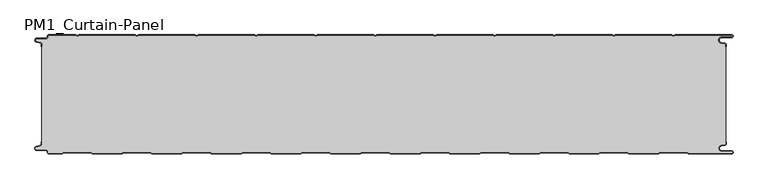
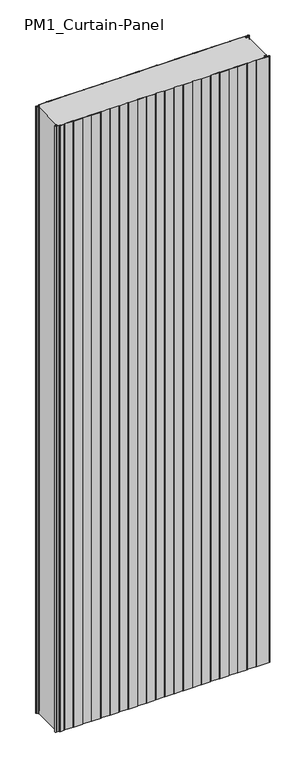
"""IFC4 building model written with IfcOpenShell, lengths in millimetres: plate geometry, PM1_Curtain-Panel : ACH_PM1_Stone-wool-Panel_200M."""

from ifc_helpers import new_model, si_unit, point, frame_2d, origin, origin_with_axes, place, context, project, spatial, polyline, circle_curve, trimmed, segment, composite_curve, outline, extrude, source, transform, mapped, element, save


def pm1_curtain_panel_dddb3a22(model_context):
    return source(origin(), model_context, "Body", "SweptSolid", [
        extrude(outline(composite_curve([segment(trimmed(circle_curve(frame_2d((-577.0, -15.878557)), 2.0), [point((-575.0, -15.878557))], [point((-576.5500978, -13.9298169))], True, "CARTESIAN"), True, "CONTINUOUS"), segment(polyline([(-576.5500978, -13.9298169), (-582.7098239, -12.507732)]), True, "CONTINUOUS"), segment(trimmed(circle_curve(frame_2d((-581.9, -9.0)), 3.6), [point((-582.7098239, -12.507732))], [point((-581.9, -5.4))], False, "CARTESIAN"), True, "CONTINUOUS"), segment(polyline([(-581.9, -5.4), (-566.4, -5.4)]), True, "CONTINUOUS"), segment(trimmed(circle_curve(frame_2d((-566.4, -3.4)), 2.0), [point((-566.4, -5.4))], [point((-564.4, -3.4))], True, "CARTESIAN"), True, "CONTINUOUS"), segment(polyline([(-564.4, -3.4), (-564.4, -2.0)]), True, "CONTINUOUS"), segment(trimmed(circle_curve(frame_2d((-562.4, -2.0)), 2.0), [point((-564.4, -2.0))], [point((-562.4, 0.0))], False, "CARTESIAN"), True, "CONTINUOUS"), segment(polyline([(-562.4, 0.0), (-517.0999995, 0.0), (-514.4, -1.5588455), (-511.7000005, 0.0), (-417.0999995, 0.0), (-414.4, -1.5588455), (-411.7000005, 0.0), (-317.0999995, 0.0), (-314.4, -1.5588455), (-311.7000005, 0.0), (-217.0999995, 0.0), (-214.4, -1.5588455), (-211.7000005, 0.0), (-117.0999995, 0.0), (-114.4, -1.5588455), (-111.7000005, 0.0), (-17.0999995, 0.0), (-14.4, -1.5588455), (-11.7000005, 0.0), (82.9000005, 0.0), (85.6, -1.5588455), (88.2999995, 0.0), (182.9000005, 0.0), (185.6, -1.5588455), (188.2999995, 0.0), (282.9000005, 0.0), (285.6, -1.5588455), (288.2999995, 0.0), (382.9000005, 0.0), (385.6, -1.5588455), (388.2999995, 0.0), (482.9000005, 0.0), (485.6, -1.5588455), (488.2999995, 0.0), (583.1, 0.0)]), True, "CONTINUOUS"), segment(trimmed(circle_curve(frame_2d((583.1, -2.5)), 2.5), [point((583.1, 0.0))], [point((583.1, -5.0))], False, "CARTESIAN"), True, "CONTINUOUS"), segment(polyline([(583.1, -5.0), (566.1, -5.0)]), True, "CONTINUOUS"), segment(trimmed(circle_curve(frame_2d((566.1, -9.0)), 4.0), [point((566.1, -5.0))], [point((565.405407, -12.939231))], True, "CARTESIAN"), True, "CONTINUOUS"), segment(polyline([(565.405407, -12.939231), (571.8514855, -14.0758491)]), True, "CONTINUOUS"), segment(trimmed(circle_curve(frame_2d((571.4, -16.6363492)), 2.6), [point((571.8514855, -14.0758491))], [point((574.0, -16.6363492))], False, "CARTESIAN"), True, "CONTINUOUS"), segment(polyline([(574.0, -16.6363492), (574.0, -20.0), (573.2, -20.0), (573.2, -16.6363492)]), True, "CONTINUOUS"), segment(trimmed(circle_curve(frame_2d((571.4, -16.6363492)), 1.8), [point((573.2, -16.6363492))], [point((571.7125669, -14.8636953))], True, "CARTESIAN"), True, "CONTINUOUS"), segment(polyline([(571.7125669, -14.8636953), (565.2664884, -13.7270772)]), True, "CONTINUOUS"), segment(trimmed(circle_curve(frame_2d((566.1, -9.0)), 4.8), [point((565.2664884, -13.7270772))], [point((566.1, -4.2))], False, "CARTESIAN"), True, "CONTINUOUS"), segment(polyline([(566.1, -4.2), (583.1, -4.2)]), True, "CONTINUOUS"), segment(trimmed(circle_curve(frame_2d((583.1, -2.5)), 1.7), [point((583.1, -4.2))], [point((583.1, -0.8))], True, "CARTESIAN"), True, "CONTINUOUS"), segment(polyline([(583.1, -0.8), (488.5143588, -0.8), (485.6, -2.482606), (482.6856412, -0.8), (388.5143588, -0.8), (385.6, -2.482606), (382.6856412, -0.8), (288.5143588, -0.8), (285.6, -2.482606), (282.6856412, -0.8), (188.5143588, -0.8), (185.6, -2.482606), (182.6856412, -0.8), (88.5143588, -0.8), (85.6, -2.482606), (82.6856412, -0.8), (-11.4856412, -0.8), (-14.4, -2.482606), (-17.3143588, -0.8), (-111.4856412, -0.8), (-114.4, -2.482606), (-117.3143588, -0.8), (-211.4856412, -0.8), (-214.4, -2.482606), (-217.3143588, -0.8), (-311.4856412, -0.8), (-314.4, -2.482606), (-317.3143588, -0.8), (-411.4856412, -0.8), (-414.4, -2.482606), (-417.3143588, -0.8), (-511.4856412, -0.8), (-514.4, -2.482606), (-517.3143588, -0.8), (-562.4, -0.8)]), True, "CONTINUOUS"), segment(trimmed(circle_curve(frame_2d((-562.4, -2.0)), 1.2), [point((-562.4, -0.8))], [point((-563.6, -2.0))], True, "CARTESIAN"), True, "CONTINUOUS"), segment(polyline([(-563.6, -2.0), (-563.6, -3.4)]), True, "CONTINUOUS"), segment(trimmed(circle_curve(frame_2d((-566.4, -3.4)), 2.8), [point((-563.6, -3.4))], [point((-566.4, -6.2))], False, "CARTESIAN"), True, "CONTINUOUS"), segment(polyline([(-566.4, -6.2), (-581.9, -6.2)]), True, "CONTINUOUS"), segment(trimmed(circle_curve(frame_2d((-581.9, -9.0)), 2.8), [point((-581.9, -6.2))], [point((-582.529863, -11.7282362))], True, "CARTESIAN"), True, "CONTINUOUS"), segment(polyline([(-582.529863, -11.7282362), (-576.370137, -13.150321)]), True, "CONTINUOUS"), segment(trimmed(circle_curve(frame_2d((-577.0, -15.878557)), 2.8), [point((-576.370137, -13.150321))], [point((-574.2, -15.878557))], False, "CARTESIAN"), True, "CONTINUOUS"), segment(polyline([(-574.2, -15.878557), (-574.2, -20.0), (-575.0, -20.0), (-575.0, -15.878557)]), True, "CONTINUOUS")], self_intersect=False)), origin_with_axes(), (0.0, 0.0, 1.0), 3500.0),
        extrude(outline(composite_curve([segment(polyline([(-574.2, -184.121443), (-574.2, -15.8785573)]), True, "CONTINUOUS"), segment(trimmed(circle_curve(frame_2d((-577.0, -15.8785573)), 2.8), [point((-574.2, -15.8785573))], [point((-576.370137, -13.1503212))], True, "CARTESIAN"), True, "CONTINUOUS"), segment(polyline([(-576.370137, -13.1503212), (-582.5298631, -11.7282362)]), True, "CONTINUOUS"), segment(trimmed(circle_curve(frame_2d((-581.9, -9.0)), 2.8), [point((-582.5298631, -11.7282362))], [point((-581.9, -6.2))], False, "CARTESIAN"), True, "CONTINUOUS"), segment(polyline([(-581.9, -6.2), (-566.4000001, -6.2)]), True, "CONTINUOUS"), segment(trimmed(circle_curve(frame_2d((-566.4000001, -3.4)), 2.8), [point((-566.4000001, -6.2))], [point((-563.6000001, -3.4))], True, "CARTESIAN"), True, "CONTINUOUS"), segment(polyline([(-563.6000001, -3.4), (-563.6000001, -2.0)]), True, "CONTINUOUS"), segment(trimmed(circle_curve(frame_2d((-562.4000001, -2.0)), 1.2), [point((-563.6000001, -2.0))], [point((-562.4000001, -0.8))], False, "CARTESIAN"), True, "CONTINUOUS"), segment(polyline([(-562.4000001, -0.8), (-517.3143589, -0.8), (-514.4000001, -2.482606), (-511.4856412, -0.8), (-417.3143589, -0.8), (-414.4000001, -2.482606), (-411.4856412, -0.8), (-317.3143589, -0.8), (-314.4000001, -2.482606), (-311.4856412, -0.8), (-217.3143589, -0.8), (-214.4000001, -2.482606), (-211.4856412, -0.8), (-117.3143589, -0.8), (-114.4000001, -2.482606), (-111.4856412, -0.8), (-17.3143589, -0.8), (-14.4000001, -2.482606), (-11.4856412, -0.8), (82.6856411, -0.8), (85.5999999, -2.482606), (88.5143588, -0.8), (182.6856411, -0.8), (185.5999999, -2.482606), (188.5143588, -0.8), (282.6856411, -0.8), (285.5999999, -2.482606), (288.5143588, -0.8), (382.6856411, -0.8), (385.5999999, -2.482606), (388.5143588, -0.8), (482.6856411, -0.8), (485.6, -2.482606), (488.5143588, -0.8), (583.1, -0.8)]), True, "CONTINUOUS"), segment(trimmed(circle_curve(frame_2d((583.1, -2.5)), 1.7), [point((583.1, -0.8))], [point((583.1, -4.2))], False, "CARTESIAN"), True, "CONTINUOUS"), segment(polyline([(583.1, -4.2), (566.1, -4.2)]), True, "CONTINUOUS"), segment(trimmed(circle_curve(frame_2d((566.1, -9.0)), 4.8), [point((566.1, -4.2))], [point((565.2664883, -13.7270771))], True, "CARTESIAN"), True, "CONTINUOUS"), segment(polyline([(565.2664883, -13.7270771), (571.7125668, -14.8636953)]), True, "CONTINUOUS"), segment(trimmed(circle_curve(frame_2d((571.4, -16.6363492)), 1.8), [point((571.7125668, -14.8636953))], [point((573.2, -16.6363492))], False, "CARTESIAN"), True, "CONTINUOUS"), segment(polyline([(573.2, -16.6363492), (573.2, -183.363652)]), True, "CONTINUOUS"), segment(trimmed(circle_curve(frame_2d((571.4, -183.363652)), 1.8), [point((573.2, -183.363652))], [point((571.7125666, -185.1363059))], False, "CARTESIAN"), True, "CONTINUOUS"), segment(polyline([(571.7125666, -185.1363059), (565.266489, -186.272923)]), True, "CONTINUOUS"), segment(trimmed(circle_curve(frame_2d((566.1, -191.0000002)), 4.7999999), [point((565.266489, -186.272923))], [point((566.1, -195.8000001))], True, "CARTESIAN"), True, "CONTINUOUS"), segment(polyline([(566.1, -195.8000001), (583.1, -195.8000001)]), True, "CONTINUOUS"), segment(trimmed(circle_curve(frame_2d((583.1, -197.5)), 1.7), [point((583.1, -195.8000001))], [point((583.1, -199.2))], False, "CARTESIAN"), True, "CONTINUOUS"), segment(polyline([(583.1, -199.2), (510.8105122, -199.2), (508.2124346, -197.7), (462.9837184, -197.7), (460.3856408, -199.2), (410.8105122, -199.2), (408.2124346, -197.7), (362.9837184, -197.7), (360.3856408, -199.2), (310.8105122, -199.2), (308.2124346, -197.7), (262.9837184, -197.7), (260.3856408, -199.2), (210.8105122, -199.2), (208.2124346, -197.7), (162.9837184, -197.7), (160.3856408, -199.2), (110.8105122, -199.2), (108.2124346, -197.7), (62.9837184, -197.7), (60.3856408, -199.2), (10.8105122, -199.2), (8.2124346, -197.7), (-37.0162816, -197.7), (-39.6143592, -199.2), (-89.1894878, -199.2), (-91.7875654, -197.7), (-137.0162816, -197.7), (-139.6143592, -199.2), (-189.1894878, -199.2), (-191.7875654, -197.7), (-237.0162816, -197.7), (-239.6143592, -199.2), (-289.1894878, -199.2), (-291.7875654, -197.7), (-337.0162816, -197.7), (-339.6143592, -199.2), (-389.1894878, -199.2), (-391.7875654, -197.7), (-437.0162816, -197.7), (-439.6143592, -199.2), (-489.1894878, -199.2), (-491.7875654, -197.7), (-537.0162816, -197.7), (-539.6143592, -199.2), (-562.4, -199.2)]), True, "CONTINUOUS"), segment(trimmed(circle_curve(frame_2d((-562.4, -198.0)), 1.2), [point((-562.4, -199.2))], [point((-563.6, -198.0))], False, "CARTESIAN"), True, "CONTINUOUS"), segment(polyline([(-563.6, -198.0), (-563.6, -196.5999998)]), True, "CONTINUOUS"), segment(trimmed(circle_curve(frame_2d((-566.4, -196.5999998)), 2.8), [point((-563.6, -196.5999998))], [point((-566.4, -193.7999998))], True, "CARTESIAN"), True, "CONTINUOUS"), segment(polyline([(-566.4, -193.7999998), (-581.9, -193.7999998)]), True, "CONTINUOUS"), segment(trimmed(circle_curve(frame_2d((-581.9, -191.0)), 2.7999998), [point((-581.9, -193.7999998))], [point((-582.529863, -188.271764))], False, "CARTESIAN"), True, "CONTINUOUS"), segment(polyline([(-582.529863, -188.271764), (-576.370137, -186.8496792)]), True, "CONTINUOUS"), segment(trimmed(circle_curve(frame_2d((-577.0, -184.121443)), 2.8), [point((-576.370137, -186.8496792))], [point((-574.2, -184.121443))], True, "CARTESIAN"), True, "CONTINUOUS")], self_intersect=False)), origin_with_axes(), (0.0, 0.0, 1.0), 3500.0),
        extrude(outline(composite_curve([segment(trimmed(circle_curve(frame_2d((-562.4, -198.0)), 2.0), [point((-562.4, -200.0))], [point((-564.4, -198.0))], False, "CARTESIAN"), True, "CONTINUOUS"), segment(polyline([(-564.4, -198.0), (-564.4, -196.6)]), True, "CONTINUOUS"), segment(trimmed(circle_curve(frame_2d((-566.4, -196.6)), 2.0), [point((-564.4, -196.6))], [point((-566.4, -194.6))], True, "CARTESIAN"), True, "CONTINUOUS"), segment(polyline([(-566.4, -194.6), (-581.9, -194.6)]), True, "CONTINUOUS"), segment(trimmed(circle_curve(frame_2d((-581.9, -191.0)), 3.6), [point((-581.9, -194.6))], [point((-582.7098239, -187.4922678))], False, "CARTESIAN"), True, "CONTINUOUS"), segment(polyline([(-582.7098239, -187.4922678), (-576.5500979, -186.070183)]), True, "CONTINUOUS"), segment(trimmed(circle_curve(frame_2d((-577.0, -184.121443)), 2.0), [point((-576.5500979, -186.070183))], [point((-575.0, -184.121443))], True, "CARTESIAN"), True, "CONTINUOUS"), segment(polyline([(-575.0, -184.121443), (-575.0, -180.0), (-574.2, -180.0), (-574.2, -184.121443)]), True, "CONTINUOUS"), segment(trimmed(circle_curve(frame_2d((-577.0, -184.121443)), 2.8), [point((-574.2, -184.121443))], [point((-576.370137, -186.8496792))], False, "CARTESIAN"), True, "CONTINUOUS"), segment(polyline([(-576.370137, -186.8496792), (-582.529863, -188.271764)]), True, "CONTINUOUS"), segment(trimmed(circle_curve(frame_2d((-581.9, -191.0)), 2.8), [point((-582.529863, -188.271764))], [point((-581.9, -193.8))], True, "CARTESIAN"), True, "CONTINUOUS"), segment(polyline([(-581.9, -193.8), (-566.4, -193.8)]), True, "CONTINUOUS"), segment(trimmed(circle_curve(frame_2d((-566.4, -196.6)), 2.8), [point((-566.4, -193.8))], [point((-563.6, -196.6))], False, "CARTESIAN"), True, "CONTINUOUS"), segment(polyline([(-563.6, -196.6), (-563.6, -198.0)]), True, "CONTINUOUS"), segment(trimmed(circle_curve(frame_2d((-562.4, -198.0)), 1.2), [point((-563.6, -198.0))], [point((-562.4, -199.2))], True, "CARTESIAN"), True, "CONTINUOUS"), segment(polyline([(-562.4, -199.2), (-539.6143592, -199.2), (-537.0162816, -197.7), (-491.7875654, -197.7), (-489.1894878, -199.2), (-439.6143592, -199.2), (-437.0162816, -197.7), (-391.7875654, -197.7), (-389.1894878, -199.2), (-339.6143592, -199.2), (-337.0162816, -197.7), (-291.7875654, -197.7), (-289.1894878, -199.2), (-239.6143592, -199.2), (-237.0162816, -197.7), (-191.7875654, -197.7), (-189.1894878, -199.2), (-139.6143592, -199.2), (-137.0162816, -197.7), (-91.7875654, -197.7), (-89.1894878, -199.2), (-39.6143592, -199.2), (-37.0162816, -197.7), (8.2124346, -197.7), (10.8105122, -199.2), (60.3856408, -199.2), (62.9837184, -197.7), (108.2124346, -197.7), (110.8105122, -199.2), (160.3856408, -199.2), (162.9837184, -197.7), (208.2124346, -197.7), (210.8105122, -199.2), (260.3856408, -199.2), (262.9837184, -197.7), (308.2124346, -197.7), (310.8105122, -199.2), (360.3856408, -199.2), (362.9837184, -197.7), (408.2124346, -197.7), (410.8105122, -199.2), (460.3856408, -199.2), (462.9837184, -197.7), (508.2124346, -197.7), (510.8105122, -199.2), (583.1, -199.2)]), True, "CONTINUOUS"), segment(trimmed(circle_curve(frame_2d((583.1, -197.5)), 1.7), [point((583.1, -199.2))], [point((583.1, -195.8))], True, "CARTESIAN"), True, "CONTINUOUS"), segment(polyline([(583.1, -195.8), (566.1, -195.8)]), True, "CONTINUOUS"), segment(trimmed(circle_curve(frame_2d((566.1, -191.0)), 4.8), [point((566.1, -195.8))], [point((565.266489, -186.2729227))], False, "CARTESIAN"), True, "CONTINUOUS"), segment(polyline([(565.266489, -186.2729227), (571.7125666, -185.1363058)]), True, "CONTINUOUS"), segment(trimmed(circle_curve(frame_2d((571.4, -183.363652)), 1.8), [point((571.7125666, -185.1363058))], [point((573.2, -183.363652))], True, "CARTESIAN"), True, "CONTINUOUS"), segment(polyline([(573.2, -183.363652), (573.2, -180.0), (574.0, -180.0), (574.0, -183.363652)]), True, "CONTINUOUS"), segment(trimmed(circle_curve(frame_2d((571.4, -183.363652)), 2.6), [point((574.0, -183.363652))], [point((571.8514851, -185.9241522))], False, "CARTESIAN"), True, "CONTINUOUS"), segment(polyline([(571.8514851, -185.9241522), (565.4054075, -187.0607691)]), True, "CONTINUOUS"), segment(trimmed(circle_curve(frame_2d((566.1, -191.0)), 4.0), [point((565.4054075, -187.0607691))], [point((566.1, -195.0))], True, "CARTESIAN"), True, "CONTINUOUS"), segment(polyline([(566.1, -195.0), (583.1, -195.0)]), True, "CONTINUOUS"), segment(trimmed(circle_curve(frame_2d((583.1, -197.5)), 2.5), [point((583.1, -195.0))], [point((583.1, -200.0))], False, "CARTESIAN"), True, "CONTINUOUS"), segment(polyline([(583.1, -200.0), (510.5961529, -200.0), (507.9980753, -198.5), (463.1980777, -198.5), (460.6000001, -200.0), (410.5961529, -200.0), (407.9980753, -198.5), (363.1980777, -198.5), (360.6000001, -200.0), (310.5961529, -200.0), (307.9980753, -198.5), (263.1980777, -198.5), (260.6000001, -200.0), (210.5961529, -200.0), (207.9980753, -198.5), (163.1980777, -198.5), (160.6000001, -200.0), (110.5961529, -200.0), (107.9980753, -198.5), (63.1980777, -198.5), (60.6000001, -200.0), (10.5961529, -200.0), (7.9980753, -198.5), (-36.8019223, -198.5), (-39.3999999, -200.0), (-89.4038471, -200.0), (-92.0019247, -198.5), (-136.8019223, -198.5), (-139.3999999, -200.0), (-189.4038471, -200.0), (-192.0019247, -198.5), (-236.8019223, -198.5), (-239.3999999, -200.0), (-289.4038471, -200.0), (-292.0019247, -198.5), (-336.8019223, -198.5), (-339.3999999, -200.0), (-389.4038471, -200.0), (-392.0019247, -198.5), (-436.8019223, -198.5), (-439.3999999, -200.0), (-489.4038471, -200.0), (-492.0019247, -198.5), (-536.8019223, -198.5), (-539.3999999, -200.0), (-562.4, -200.0)]), True, "CONTINUOUS")], self_intersect=False)), origin_with_axes(), (0.0, 0.0, 1.0), 3500.0),
    ])


if __name__ == "__main__":
    model = new_model("IFC4")
    model_context = context("Model", 3, world=origin())
    ifc_project = project(units=[si_unit("LENGTHUNIT", "METRE", prefix="MILLI")], contexts=[model_context])
    site = spatial("IfcSite", under=ifc_project)
    building = spatial("IfcBuilding", under=site)
    placement = place(None, origin())
    pm1_curtain_panel_shape = pm1_curtain_panel_dddb3a22(model_context)
    element("IfcPlate", 1, ObjectType="PM1_Curtain-Panel : ACH_PM1_Stone-wool-Panel_200M", at=placement, inside=building, context=model_context, shape_type="MappedRepresentation", body=[
        mapped(pm1_curtain_panel_shape, transform((0.0, 0.0, 0.0), x_axis=(1.0, 0.0, 0.0), y_axis=(0.0, 1.0, 0.0), z_axis=(0.0, 0.0, 1.0))),
    ])
    save(model, "model.ifc")
